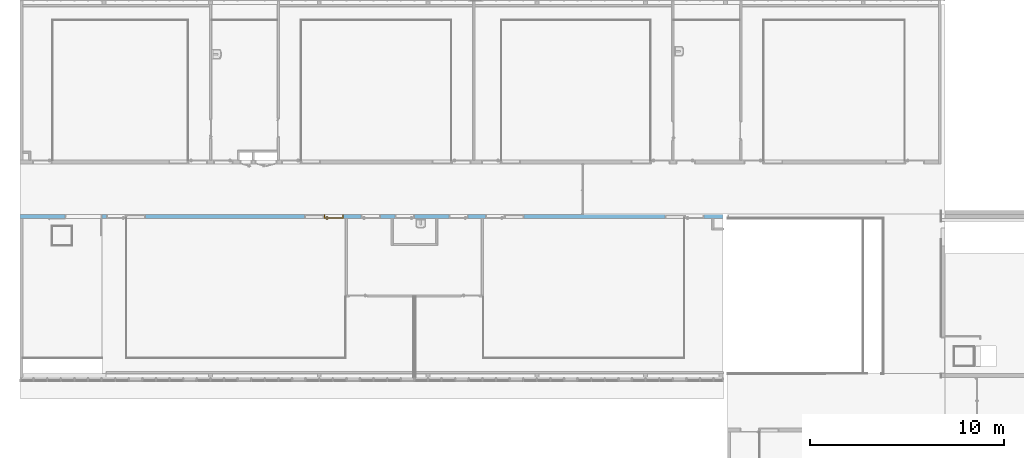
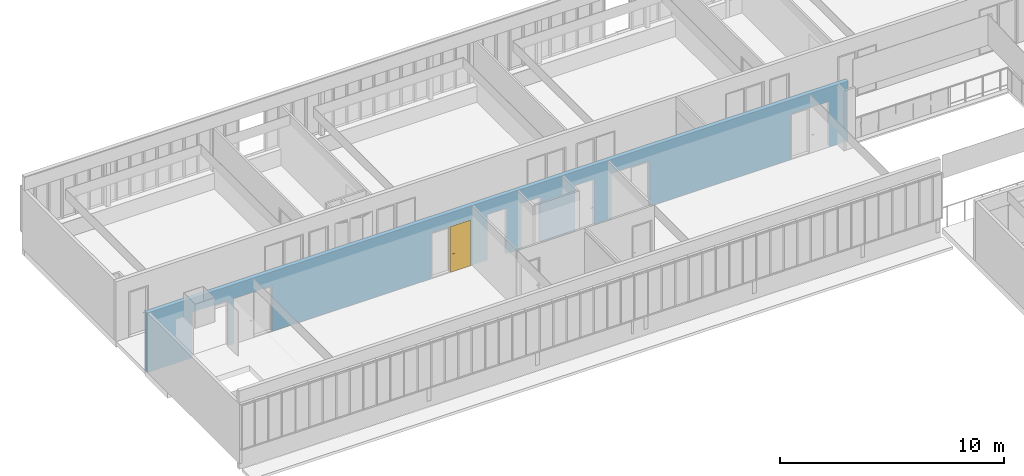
# One storey, part 31 of 87: 1 door, 12 openings, plus 1 element that does not belong to this part.
"""IFC2X3 building model written with IfcOpenShell, lengths in centimetres."""

from ifc_helpers import new_model, entity, si_unit, converted_unit, derived_unit, direction, frame, frame_2d, origin, place, context, subcontext, project, spatial, rectangle, extrude, faceted_brep, source, transform, mapped, material, material_list, layer, layer_set, layer_usage, type_object, type_shapes, element, fill, save


model = new_model("IFC2X3")

# Units and contexts
model_context = context("Model", 3, precision=0.001, world=origin(), true_north=direction((6.12303176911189e-17, 1.0)))
body_context = subcontext(model_context, "Body", "Model", "MODEL_VIEW")
ifc_project = project(units=[si_unit("LENGTHUNIT", "METRE", prefix="CENTI"), si_unit("AREAUNIT", "SQUARE_METRE"), si_unit("VOLUMEUNIT", "CUBIC_METRE"), converted_unit("PLANEANGLEUNIT", "DEGREE", entity("IfcRatioMeasure", 0.0174532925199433), si_unit("PLANEANGLEUNIT", "RADIAN"), dimensions=[0, 0, 0, 0, 0, 0, 0]), si_unit("MASSUNIT", "GRAM", prefix="KILO"), derived_unit("MASSDENSITYUNIT", [(si_unit("MASSUNIT", "GRAM", prefix="KILO"), 1), (si_unit("LENGTHUNIT", "METRE"), -3)]), si_unit("TIMEUNIT", "SECOND"), si_unit("FREQUENCYUNIT", "HERTZ"), si_unit("THERMODYNAMICTEMPERATUREUNIT", "DEGREE_CELSIUS"), derived_unit("THERMALTRANSMITTANCEUNIT", [(si_unit("MASSUNIT", "GRAM", prefix="KILO"), 1), (si_unit("THERMODYNAMICTEMPERATUREUNIT", "KELVIN"), -1), (si_unit("TIMEUNIT", "SECOND"), -3)]), derived_unit("VOLUMETRICFLOWRATEUNIT", [(si_unit("LENGTHUNIT", "METRE"), 3), (si_unit("TIMEUNIT", "SECOND"), -1)]), si_unit("ELECTRICCURRENTUNIT", "AMPERE"), si_unit("ELECTRICVOLTAGEUNIT", "VOLT"), si_unit("POWERUNIT", "WATT"), si_unit("FORCEUNIT", "NEWTON", prefix="KILO"), si_unit("ILLUMINANCEUNIT", "LUX"), si_unit("LUMINOUSFLUXUNIT", "LUMEN"), si_unit("LUMINOUSINTENSITYUNIT", "CANDELA"), derived_unit("USERDEFINED", [(si_unit("MASSUNIT", "GRAM", prefix="KILO"), -1), (si_unit("LENGTHUNIT", "METRE"), -2), (si_unit("TIMEUNIT", "SECOND"), 3), (si_unit("LUMINOUSFLUXUNIT", "LUMEN"), 1)]), derived_unit("LINEARVELOCITYUNIT", [(si_unit("LENGTHUNIT", "METRE"), 1), (si_unit("TIMEUNIT", "SECOND"), -1)]), si_unit("PRESSUREUNIT", "PASCAL"), derived_unit("USERDEFINED", [(si_unit("LENGTHUNIT", "METRE"), -2), (si_unit("MASSUNIT", "GRAM", prefix="KILO"), 1), (si_unit("TIMEUNIT", "SECOND"), -2)])], contexts=[model_context])

# Site, building, storey
site_placement = place(None, frame((-2781.94577612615, 7442.24238424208, 0.0)))
site = spatial("IfcSite", under=ifc_project, at=site_placement, Name="Default", CompositionType="ELEMENT")
building_placement = place(site_placement, origin())
building = spatial("IfcBuilding", under=site, at=building_placement, CompositionType="ELEMENT")
storey_placement = place(building_placement, frame((0.0, 0.0, 774.0)))
storey = spatial("IfcBuildingStorey", under=building, at=storey_placement, Name="TR - N02 - ARCH", CompositionType="ELEMENT", Elevation=774.0)

# Wall, openings, door
ifc_material_1 = material(Name="01 - Maçonnerie")
ifc_layer = layer(ifc_material_1, 20.0)
ifc_layer_set = layer_set([ifc_layer], Name="Mur de base:04 - Structure - béton - 20cm")
ifc_layer_usage = layer_usage(ifc_layer_set, "AXIS2", "NEGATIVE", 10.0)
wall_type = type_object("IfcWallType", Name="Mur de base:04 - Structure - béton - 20cm", PredefinedType="STANDARD", material=ifc_layer_set)
wall_placement = place(storey_placement, frame((-4791.99987760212, -1100.0, 0.0), z_axis=(0.0, 0.0, 1.0), x_axis=(-1.0, 0.0, 0.0)))
wall = element("IfcWallStandardCase", 1, at=wall_placement, inside=storey, type_object=wall_type, material=ifc_layer_usage, Name="Mur de base:04 - Structure - béton - 20cm", ObjectType="Mur de base:04 - Structure - béton - 20cm", context=body_context, shape_type="SweptSolid", body=[
    extrude(rectangle(XDim=3617.50000006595, YDim=20.0000000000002, at=frame_2d((1808.75000003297, -3.99680288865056e-14), x_axis=(-1.0, 0.0))), origin(), (0.0, 0.0, 1.0), 326.0),
])
opening_1_placement = place(wall_placement, frame((3071.50016406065, -10.0, 0.0)))
element("IfcOpeningElement", 2, at=opening_1_placement, cuts=wall, Name="Int. Simple:PV (0.93m x 2.50m):1", ObjectType="Opening", context=body_context, shape_type="SweptSolid", body=[
    extrude(rectangle(XDim=248.500000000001, YDim=99.9999999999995, at=frame_2d((124.250000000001, 49.9999999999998), x_axis=(1.0, 0.0))), frame((0.0, 0.0, 0.0), z_axis=(0.0, 1.0, 0.0), x_axis=(0.0, 0.0, 1.0)), (0.0, 0.0, 1.0), 20.0),
])
opening_2_placement = place(wall_placement, frame((1952.5, -10.0, 0.0)))
opening_2 = element("IfcOpeningElement", 3, at=opening_2_placement, cuts=wall, Name="Int. Simple:PV (0.93m x 2.50m):1", ObjectType="Opening", context=body_context, shape_type="SweptSolid", body=[
    extrude(rectangle(XDim=248.500000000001, YDim=99.9999999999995, at=frame_2d((124.250000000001, 50.0), x_axis=(1.0, 0.0))), frame((0.0, 0.0, 0.0), z_axis=(0.0, 1.0, 0.0), x_axis=(0.0, 0.0, 1.0)), (0.0, 0.0, 1.0), 20.0),
])
opening_3_placement = place(wall_placement, frame((1762.50000000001, -10.0, 0.0)))
element("IfcOpeningElement", 4, at=opening_3_placement, cuts=wall, Name="Int. Simple:PP simple (0.93m x 2.50m):1", ObjectType="Opening", context=body_context, shape_type="SweptSolid", body=[
    extrude(rectangle(XDim=248.500000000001, YDim=99.9999999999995, at=frame_2d((124.250000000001, 50.0), x_axis=(1.0, 0.0))), frame((0.0, 0.0, 0.0), z_axis=(0.0, 1.0, 0.0), x_axis=(0.0, 0.0, 1.0)), (0.0, 0.0, 1.0), 20.0),
])
opening_4_placement = place(wall_placement, frame((1310.5, -10.0, 0.0)))
element("IfcOpeningElement", 5, at=opening_4_placement, cuts=wall, Name="Int. Simple:PP simple (0.93m x 2.50m):1", ObjectType="Opening", context=body_context, shape_type="SweptSolid", body=[
    extrude(rectangle(XDim=248.500000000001, YDim=99.9999999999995, at=frame_2d((124.250000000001, 49.9999999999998), x_axis=(1.0, 0.0))), frame((0.0, 0.0, 0.0), z_axis=(0.0, 1.0, 0.0), x_axis=(0.0, 0.0, 1.0)), (0.0, 0.0, 1.0), 20.0),
])
opening_5_placement = place(wall_placement, frame((1587.5, -10.0, 0.0)))
element("IfcOpeningElement", 6, at=opening_5_placement, cuts=wall, Name="Int. Simple:PP simple (0.93m x 2.50m):1", ObjectType="Opening", context=body_context, shape_type="SweptSolid", body=[
    extrude(rectangle(XDim=248.500000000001, YDim=99.9999999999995, at=frame_2d((124.250000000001, 49.9999999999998), x_axis=(1.0, 0.0))), frame((0.0, 0.0, 0.0), z_axis=(0.0, 1.0, 0.0), x_axis=(0.0, 0.0, 1.0)), (0.0, 0.0, 1.0), 20.0),
])
opening_6_placement = place(wall_placement, frame((1122.5, -10.0, 0.0)))
element("IfcOpeningElement", 7, at=opening_6_placement, cuts=wall, Name="Int. Simple:PV (0.93m x 2.50m):1", ObjectType="Opening", context=body_context, shape_type="SweptSolid", body=[
    extrude(rectangle(XDim=248.500000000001, YDim=99.9999999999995, at=frame_2d((124.250000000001, 49.9999999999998), x_axis=(1.0, 0.0))), frame((0.0, 0.0, 0.0), z_axis=(0.0, 1.0, 0.0), x_axis=(0.0, 0.0, 1.0)), (0.0, 0.0, 1.0), 20.0),
])
opening_7_placement = place(wall_placement, frame((97.5000000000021, -10.0, 0.0)))
element("IfcOpeningElement", 8, at=opening_7_placement, cuts=wall, Name="Int. Simple:PV (0.93m x 2.50m):1", ObjectType="Opening", context=body_context, shape_type="SweptSolid", body=[
    extrude(rectangle(XDim=248.500000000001, YDim=99.9999999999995, at=frame_2d((124.250000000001, 50.0), x_axis=(1.0, 0.0))), frame((0.0, 0.0, 0.0), z_axis=(0.0, 1.0, 0.0), x_axis=(0.0, 0.0, 1.0)), (0.0, 0.0, 1.0), 20.0),
])
opening_8_placement = place(wall_placement, frame((1022.5, -10.0, 0.0)))
element("IfcOpeningElement", 9, at=opening_8_placement, cuts=wall, Name="châssis intérieur vitré:châssis intérieur vitré (h=270) R+1:1", ObjectType="Opening", context=body_context, shape_type="SweptSolid", body=[
    extrude(rectangle(XDim=250.0, YDim=99.9999999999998, at=frame_2d((125.0, 49.9999999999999), x_axis=(1.0, 0.0))), frame((0.0, 0.0, 0.0), z_axis=(0.0, 1.0, 0.0), x_axis=(0.0, 0.0, 1.0)), (0.0, 0.0, 1.0), 20.0),
])
opening_9_placement = place(wall_placement, frame((197.500000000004, -10.0, 0.0)))
element("IfcOpeningElement", 10, at=opening_9_placement, cuts=wall, Name="châssis intérieur vitré:châssis intérieur vitré (h=270) R+1:1", ObjectType="Opening", context=body_context, shape_type="SweptSolid", body=[
    extrude(rectangle(XDim=250.0, YDim=99.9999999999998, at=frame_2d((125.0, 49.9999999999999), x_axis=(1.0, 0.0))), frame((0.0, 0.0, 0.0), z_axis=(0.0, 1.0, 0.0), x_axis=(0.0, 0.0, 1.0)), (0.0, 0.0, 1.0), 20.0),
])
opening_10_placement = place(wall_placement, frame((2052.5, -10.0, 0.0)))
element("IfcOpeningElement", 11, at=opening_10_placement, cuts=wall, Name="châssis intérieur vitré:châssis intérieur vitré (h=270) R+1:1", ObjectType="Opening", context=body_context, shape_type="SweptSolid", body=[
    extrude(rectangle(XDim=250.0, YDim=99.9999999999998, at=frame_2d((125.0, 49.9999999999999), x_axis=(1.0, 0.0))), frame((0.0, 0.0, 0.0), z_axis=(0.0, 1.0, 0.0), x_axis=(0.0, 0.0, 1.0)), (0.0, 0.0, 1.0), 20.0),
])
opening_11_placement = place(wall_placement, frame((2971.50016406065, -10.0, 0.0)))
element("IfcOpeningElement", 12, at=opening_11_placement, cuts=wall, Name="châssis intérieur vitré:châssis intérieur vitré (h=270) R+1:1", ObjectType="Opening", context=body_context, shape_type="SweptSolid", body=[
    extrude(rectangle(XDim=250.0, YDim=99.9999999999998, at=frame_2d((125.0, 49.9999999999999), x_axis=(1.0, 0.0))), frame((0.0, 0.0, 0.0), z_axis=(0.0, 1.0, 0.0), x_axis=(0.0, 0.0, 1.0)), (0.0, 0.0, 1.0), 20.0),
])
opening_12_placement = place(wall_placement, frame((3196.0, -10.0, 0.0)))
element("IfcOpeningElement", 13, at=opening_12_placement, cuts=wall, Name="Int. Double:PP (1.83m x 2.04m):1", ObjectType="Opening", context=body_context, shape_type="SweptSolid", body=[
    extrude(rectangle(XDim=248.500000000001, YDim=190.0, at=frame_2d((124.250000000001, 95.0000000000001), x_axis=(1.0, 0.0))), frame((0.0, 0.0, 0.0), z_axis=(0.0, 1.0, 0.0), x_axis=(0.0, 0.0, 1.0)), (0.0, 0.0, 1.0), 20.0),
])
ifc_material_2 = material(Name="Finition Peinture - Blanc satiné")
ifc_material_3 = material(Name="Bois - Panneau de porte")
ifc_material_4 = material(Name="Bois - Cadre de porte")
ifc_material_list_1 = material_list([ifc_material_2, ifc_material_3, ifc_material_4])
ifc_material_list_2 = material_list([ifc_material_2, ifc_material_3, ifc_material_4])
door_style = type_object("IfcDoorStyle", Name="PV (0.93m x 2.50m)", ConstructionType="NOTDEFINED", OperationType="SINGLE_SWING_LEFT", ParameterTakesPrecedence=False, Sizeable=False, material=ifc_material_list_2)
shared_shape = source(origin(), body_context, "Body", "Brep", [
    faceted_brep([(10.5352761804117, -0.500000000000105, 86.6003983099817), (11.5000000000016, -0.500000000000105, 87.0), (11.5000000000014, -0.500000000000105, 108.0), (10.5352761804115, -0.500000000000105, 108.399601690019), (9.50000000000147, -0.500000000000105, 108.535898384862), (8.46472381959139, -0.500000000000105, 108.399601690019), (7.50000000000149, -0.500000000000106, 108.0), (7.50000000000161, -0.500000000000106, 87.0), (8.46472381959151, -0.500000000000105, 86.6003983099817), (9.50000000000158, -0.500000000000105, 86.464101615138), (10.5352761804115, 0.0, 108.399601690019), (11.5000000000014, 0.0, 108.0), (11.5000000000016, 0.0, 87.0), (10.5352761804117, 0.0, 86.6003983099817), (9.50000000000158, 0.0, 86.464101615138), (8.46472381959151, 0.0, 86.6003983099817), (7.50000000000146, 0.0, 87.0), (7.50000000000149, 0.0, 108.0), (8.46472381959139, 0.0, 108.399601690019), (9.50000000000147, 0.0, 108.535898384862)], [[[0, 1, 2, 3, 4, 5, 6, 7, 8, 9]], [[10, 11, 12, 13, 14, 15, 16, 17, 18, 19]], [[16, 15, 8, 7]], [[8, 15, 14, 9]], [[14, 13, 0, 9]], [[13, 12, 1, 0]], [[2, 1, 12, 11]], [[11, 10, 3, 2]], [[3, 10, 19, 4]], [[19, 18, 5, 4]], [[18, 17, 6, 5]], [[7, 6, 17, 16]]]),
    faceted_brep([(10.5352761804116, 4.0, 86.6003983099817), (11.5000000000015, 4.0, 87.0), (11.5000000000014, 4.0, 108.0), (10.5352761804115, 4.0, 108.399601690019), (9.50000000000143, 4.0, 108.535898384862), (8.46472381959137, 4.0, 108.399601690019), (7.50000000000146, 4.0, 108.0), (7.50000000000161, 4.0, 87.0), (8.46472381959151, 4.0, 86.6003983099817), (9.50000000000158, 4.0, 86.464101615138), (10.5352761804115, 4.49999999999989, 108.399601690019), (11.5000000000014, 4.49999999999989, 108.0), (11.5000000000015, 4.49999999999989, 87.0), (10.5352761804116, 4.49999999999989, 86.6003983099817), (9.50000000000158, 4.49999999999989, 86.464101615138), (8.46472381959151, 4.49999999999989, 86.6003983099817), (7.50000000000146, 4.49999999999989, 87.0), (7.50000000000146, 4.49999999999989, 108.0), (8.46472381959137, 4.49999999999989, 108.399601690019), (9.50000000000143, 4.49999999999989, 108.535898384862)], [[[0, 1, 2, 3, 4, 5, 6, 7, 8, 9]], [[10, 11, 12, 13, 14, 15, 16, 17, 18, 19]], [[11, 10, 3, 2]], [[3, 10, 19, 4]], [[19, 18, 5, 4]], [[18, 17, 6, 5]], [[7, 6, 17, 16]], [[16, 15, 8, 7]], [[8, 15, 14, 9]], [[14, 13, 0, 9]], [[13, 12, 1, 0]], [[2, 1, 12, 11]]]),
    faceted_brep([(9.29747013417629, -0.500000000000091, 100.778044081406), (9.70252986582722, -0.500000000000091, 100.778044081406), (10.1000000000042, -0.500000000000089, 100.699999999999), (10.1000000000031, -0.500000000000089, 99.3000000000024), (9.7025298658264, -0.500000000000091, 99.2219559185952), (9.29747013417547, -0.500000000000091, 99.221955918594), (8.8999999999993, -0.500000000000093, 99.2999999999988), (8.89999999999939, -0.500000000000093, 100.7), (8.89999999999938, -3.26509507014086, 100.7), (9.29747013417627, -3.10045754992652, 100.778044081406), (10.9023585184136, -4.70534593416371, 100.778044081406), (11.0701397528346, -4.30028620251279, 100.778044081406), (9.7025298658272, -2.93267631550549, 100.778044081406), (10.1000000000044, -2.76803879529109, 100.7), (10.1000000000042, -2.76803879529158, 99.3000000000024), (9.7025298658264, -2.93267631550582, 99.2219559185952), (11.0701397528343, -4.30028620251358, 99.2219559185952), (10.9023585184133, -4.70534593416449, 99.221955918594), (9.29747013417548, -3.10045754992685, 99.221955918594), (8.89999999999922, -3.26509507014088, 99.2999999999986), (10.7377209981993, -5.10281606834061, 100.7), (11.2347772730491, -3.90281606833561, 100.7), (11.2347772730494, -3.90281606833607, 99.3000000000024), (10.7377209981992, -5.10281606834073, 99.2999999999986), (19.5018640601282, -5.1028160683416, 99.2999999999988), (19.5018640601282, -4.70534593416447, 99.221955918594), (19.5018640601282, -4.30028620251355, 99.2219559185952), (19.5018640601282, -3.90281606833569, 99.3000000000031), (19.5018640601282, -3.90281606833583, 100.7), (19.5018640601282, -4.30028620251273, 100.778044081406), (19.5018640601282, -4.70534593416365, 100.778044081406), (19.5018640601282, -5.10281606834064, 100.699999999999), (14.7307697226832, -5.10281606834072, 100.7), (15.2860019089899, -4.5028160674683, 100.78786867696), (15.3683206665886, -3.9028160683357, 100.7), (15.3683206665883, -3.90281606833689, 99.3000000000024), (15.2860018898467, -4.50281607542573, 99.2121313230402), (14.7307700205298, -5.10281606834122, 99.2999999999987)], [[[0, 1, 2, 3, 4, 5, 6, 7]], [[8, 9, 0, 7]], [[9, 10, 11, 12, 1, 0]], [[12, 13, 2, 1]], [[3, 2, 13, 14]], [[14, 15, 4, 3]], [[15, 16, 17, 18, 5, 4]], [[18, 19, 6, 5]], [[7, 6, 19, 8]], [[20, 10, 9, 8]], [[11, 21, 13, 12]], [[14, 13, 21, 22]], [[22, 16, 15, 14]], [[17, 23, 19, 18]], [[8, 19, 23, 20]], [[24, 25, 26, 27, 28, 29, 30, 31]], [[32, 30, 33]], [[31, 30, 32]], [[10, 20, 32]], [[33, 34, 11]], [[21, 11, 34]], [[34, 29, 28]], [[30, 29, 33]], [[29, 34, 33]], [[10, 32, 33]], [[10, 33, 11]], [[22, 21, 34, 28, 27, 35]], [[35, 26, 36]], [[37, 36, 25]], [[22, 35, 16]], [[35, 27, 26]], [[24, 37, 25]], [[23, 17, 37]], [[37, 17, 36]], [[17, 16, 36]], [[16, 35, 36]], [[25, 36, 26]], [[20, 23, 37, 24, 31, 32]]]),
    faceted_brep([(9.29747013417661, 4.49999999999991, 100.778044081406), (8.89999999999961, 4.4999999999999, 100.7), (8.89999999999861, 4.4999999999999, 99.2999999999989), (9.29747013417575, 4.49999999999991, 99.221955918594), (9.70252986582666, 4.49999999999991, 99.2219559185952), (10.1000000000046, 4.49999999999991, 99.3000000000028), (10.1000000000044, 4.49999999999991, 100.7), (9.70252986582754, 4.49999999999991, 100.778044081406), (10.1000000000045, 6.7485204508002, 99.3000000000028), (10.1000000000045, 6.74852045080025, 100.7), (9.70252986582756, 6.91315797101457, 100.778044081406), (11.083890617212, 8.29451872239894, 100.778044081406), (10.916109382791, 8.69957845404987, 100.778044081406), (9.29747013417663, 7.0809392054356, 100.778044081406), (8.89999999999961, 7.24557672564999, 100.7), (8.89999999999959, 7.2455767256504, 99.2999999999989), (9.29747013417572, 7.08093920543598, 99.221955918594), (10.9161093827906, 8.69957845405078, 99.221955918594), (11.0838906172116, 8.29451872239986, 99.2219559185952), (9.70252986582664, 6.91315797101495, 99.2219559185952), (11.2485281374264, 7.89704858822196, 99.3000000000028), (11.2485281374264, 7.89704858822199, 100.7), (10.7514718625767, 9.09704858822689, 100.7), (10.7514718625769, 9.0970485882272, 99.2999999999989), (19.5045783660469, 7.89704858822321, 99.3000000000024), (19.5045783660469, 8.29451872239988, 99.2219559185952), (19.5045783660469, 8.6995784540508, 99.221955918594), (19.5045783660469, 9.09704858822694, 99.2999999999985), (19.5045783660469, 9.09704858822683, 100.7), (19.5045783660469, 8.69957845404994, 100.778044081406), (19.5045783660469, 8.29451872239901, 100.778044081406), (19.5045783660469, 7.89704858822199, 100.7), (15.3765520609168, 7.89704858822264, 99.3000000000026), (15.3765532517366, 7.89704858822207, 100.7), (15.294234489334, 8.49704858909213, 100.78786867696), (14.7445205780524, 9.09704858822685, 100.7), (14.7445204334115, 9.09704858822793, 99.2999999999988), (15.2942345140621, 8.49704858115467, 99.2121313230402)], [[[0, 1, 2, 3, 4, 5, 6, 7]], [[6, 5, 8, 9]], [[9, 10, 7, 6]], [[10, 11, 12, 13, 0, 7]], [[13, 14, 1, 0]], [[2, 1, 14, 15]], [[15, 16, 3, 2]], [[16, 17, 18, 19, 4, 3]], [[19, 8, 5, 4]], [[9, 8, 20, 21]], [[21, 11, 10, 9]], [[12, 22, 14, 13]], [[15, 14, 22, 23]], [[23, 17, 16, 15]], [[18, 20, 8, 19]], [[24, 25, 26, 27, 28, 29, 30, 31]], [[21, 20, 32, 24, 31, 33]], [[33, 30, 34]], [[35, 34, 29]], [[21, 33, 11]], [[33, 31, 30]], [[28, 35, 29]], [[22, 12, 35]], [[35, 12, 34]], [[12, 11, 34]], [[11, 33, 34]], [[29, 34, 30]], [[22, 35, 28, 27, 36, 23]], [[36, 26, 37]], [[27, 26, 36]], [[17, 23, 36]], [[37, 32, 18]], [[20, 18, 32]], [[32, 25, 24]], [[26, 25, 37]], [[25, 32, 37]], [[17, 36, 37]], [[17, 37, 18]]]),
    faceted_brep([(3.50000000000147, 4.0, 245.0), (96.5000000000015, 4.0, 245.0), (96.5000000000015, 4.0, 0.0), (3.50000000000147, 4.0, 0.0), (3.50000000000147, 0.0, 245.0), (3.50000000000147, 0.0, 0.0), (96.5000000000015, 0.0, 0.0), (96.5000000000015, 0.0, 245.0)], [[[0, 1, 2, 3]], [[4, 5, 6, 7]], [[1, 0, 4, 7]], [[2, 1, 7, 6]], [[3, 2, 6, 5]], [[0, 3, 5, 4]]]),
    faceted_brep([(0.0, 20.0, 0.0), (-1.50000000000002, 20.0, 0.0), (-1.50000000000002, 20.5000000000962, 0.0), (5.0, 20.5000000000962, 0.0), (5.0, 4.0, 0.0), (3.50000000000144, 4.0, 0.0), (3.50000000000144, -0.500000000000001, 0.0), (-1.50000000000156, -0.500000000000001, 0.0), (-1.50000000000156, 0.0, 0.0), (0.0, 0.0, 0.0), (0.0, 20.0, 248.500000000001), (100.0, 20.0, 248.500000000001), (100.0, 20.0, 0.0), (101.5, 20.0, 0.0), (101.5, 20.0, 250.0), (-1.50000000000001, 20.0, 250.0), (-1.50000000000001, 20.5000000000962, 250.0), (101.5, 20.5000000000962, 250.0), (101.5, 20.5000000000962, 0.0), (95.0, 20.5000000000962, 0.0), (95.0, 20.5000000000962, 243.5), (5.0, 20.5000000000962, 243.5), (5.0, 4.0, 243.5), (95.0, 4.0, 243.5), (95.0, 4.0, 0.0), (96.499999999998, 4.0, 0.0), (96.499999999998, 4.0, 245.0), (3.50000000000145, 4.0, 245.0), (3.50000000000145, -0.500000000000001, 245.0), (96.499999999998, -0.500000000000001, 245.0), (96.499999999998, -0.500000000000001, 0.0), (101.500000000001, -0.500000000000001, 0.0), (101.500000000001, -0.500000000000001, 250.0), (-1.50000000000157, -0.500000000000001, 250.0), (-1.50000000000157, 0.0, 250.0), (101.500000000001, 0.0, 250.0), (101.500000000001, 0.0, 0.0), (100.0, 0.0, 0.0), (100.0, 0.0, 248.500000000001), (0.0, 0.0, 248.500000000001)], [[[0, 1, 2, 3, 4, 5, 6, 7, 8, 9]], [[1, 0, 10, 11, 12, 13, 14, 15]], [[2, 1, 15, 16]], [[3, 2, 16, 17, 18, 19, 20, 21]], [[3, 21, 22, 4]], [[5, 4, 22, 23, 24, 25, 26, 27]], [[5, 27, 28, 6]], [[7, 6, 28, 29, 30, 31, 32, 33]], [[8, 7, 33, 34]], [[9, 8, 34, 35, 36, 37, 38, 39]], [[0, 9, 39, 10]], [[11, 38, 37, 12]], [[12, 37, 36, 31, 30, 25, 24, 19, 18, 13]], [[17, 14, 13, 18]], [[23, 20, 19, 24]], [[29, 26, 25, 30]], [[35, 32, 31, 36]], [[16, 15, 14, 17]], [[22, 21, 20, 23]], [[28, 27, 26, 29]], [[34, 33, 32, 35]], [[10, 39, 38, 11]]]),
])
type_shapes(door_style, [shared_shape])
door_placement = place(opening_2_placement, frame((100.0, 20.0, 0.0), z_axis=(0.0, 0.0, 1.0), x_axis=(-1.0, 0.0, 0.0)))
door = element("IfcDoor", 14, at=door_placement, inside=storey, type_object=door_style, material=ifc_material_list_1, Name="Int. Simple:PV (0.93m x 2.50m)", ObjectType="Int. Simple:PV (0.93m x 2.50m)", OverallHeight=248.500000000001, OverallWidth=99.9999999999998, context=body_context, shape_type="MappedRepresentation", body=[
    mapped(shared_shape, transform((0.0, 0.0, 0.0), scale=1.0)),
])
fill(opening_2, door)

save(model, "model.ifc")
